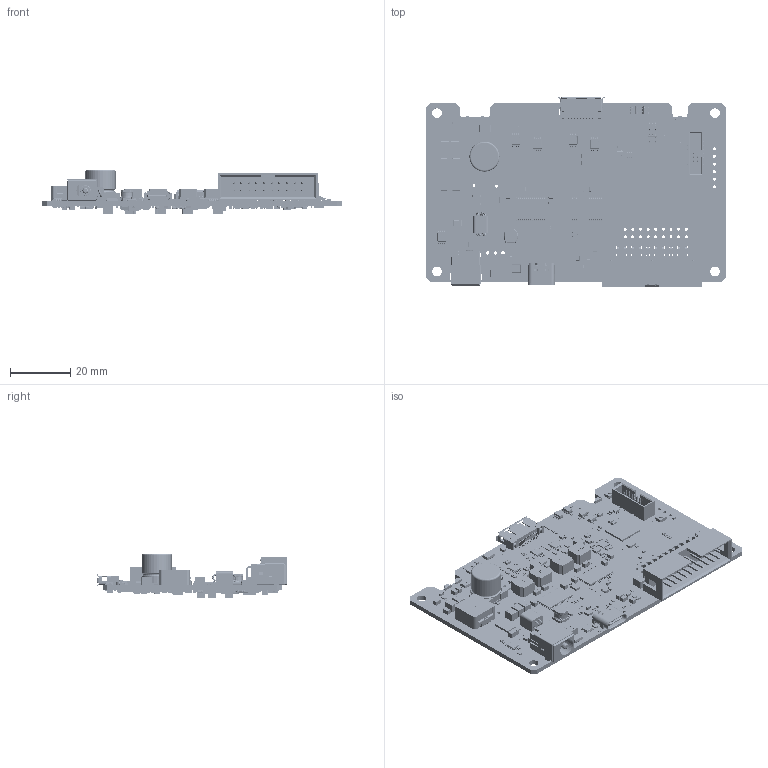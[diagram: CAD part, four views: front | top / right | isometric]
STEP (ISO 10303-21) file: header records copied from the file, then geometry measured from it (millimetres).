
FILE_DESCRIPTION (( 'STEP AP214' ), '1' );
FILE_NAME ('187-531-00__.STEP', '2026-04-13T09:49:50', ( '' ), ( '' ), 'SwSTEP 2.0', 'SolidWorks 2024', '' );
FILE_SCHEMA (( 'AUTOMOTIVE_DESIGN' ));
Products named in the file (1): 187-531-00__
Bounding box: 99.5 x 63.32 x 14.97 mm (x, y, z)
Surface area: 23519.9 mm2 (no closed solid volume)
Topology: 0 solids, 3782 shells, 15090 faces, 67067 edges, 54185 vertices
Faces by surface type: plane 10501, cylinder 3117, bspline 847, sphere 585, torus 22, cone 18
Full cylindrical faces by diameter (mm): 0.3 x27, 0.35 x4, 0.408 x1, 0.5 x7, 0.65 x2, 0.75 x2, 0.85 x5, 0.95 x2, 1 x48, 1.1 x21, 1.2 x62, 1.5 x1, 3.2 x4
Entity records: 803045 total; most frequent: CARTESIAN_POINT 304569, DIRECTION 91623, ORIENTED_EDGE 83721, EDGE_CURVE 66234, VERTEX_POINT 54138, LINE 48237, VECTOR 48237, AXIS2_PLACEMENT_3D 21693
